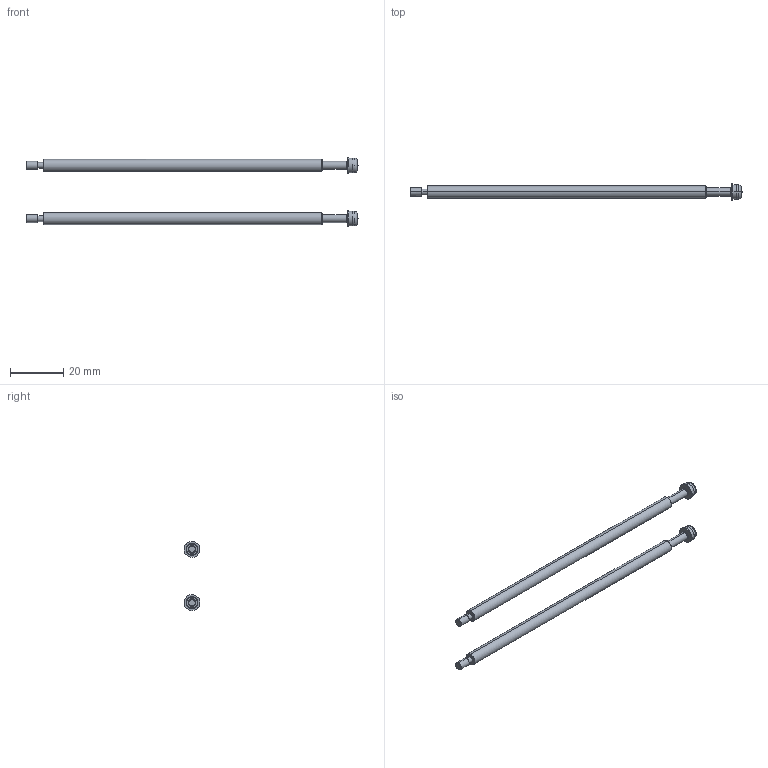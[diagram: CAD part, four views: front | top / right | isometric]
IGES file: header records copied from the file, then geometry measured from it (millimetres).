
Start section: ------------------------------------------------------------------------
Bounding box: 124.9 x 5.99 x 26 mm (x, y, z)
Volume: 3609.9 mm3; surface area: 3835.9 mm2
Topology: 4 solids, 4 shells, 94 faces, 188 edges, 108 vertices
Faces by surface type: bspline 94
